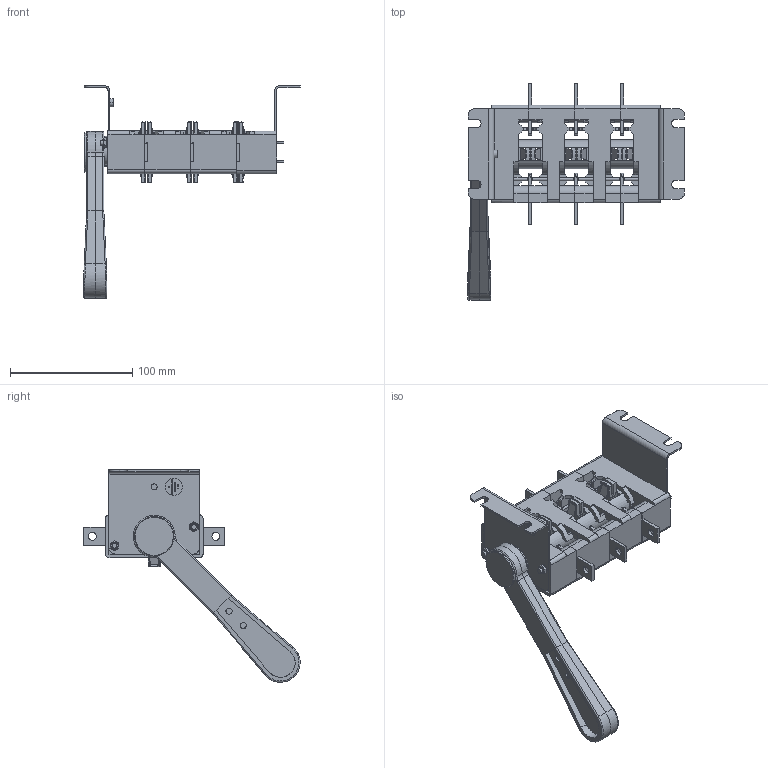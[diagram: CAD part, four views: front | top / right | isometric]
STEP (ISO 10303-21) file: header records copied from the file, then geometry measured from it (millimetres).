
FILE_DESCRIPTION (( 'STEP AP214' ), '1' );
FILE_NAME ('ﾂﾐ32-31 ﾃﾆﾈﾊ.642423.007-05 (ﾀ30220-100ﾀ).STEP', '2023-04-18T11:50:17', ( '' ), ( '' ), 'SwSTEP 2.0', 'SolidWorks 2018', '' );
FILE_SCHEMA (( 'AUTOMOTIVE_DESIGN' ));
Length unit declared in the file: millimetre
Products named in the file (24): Çàãëóøêà ÃÆÈÊ.735211.002_â¥å­®«®£¨ç¥áª ï; 想囫蜩磬_闷仁.745355.029; 暑痫篑 镳噔 闷仁.735384.079; Êîðïóñ ñðåäíèé ÃÆÈÊ.735384.080; Âàë ÃÆÈÊ.715274.009_ƒ†ˆŠ.715274.009; Êîíòàêò ïîäâèæíûé ÃÆÈÊ.745355.054; Áîêîâèíà ëåâàÿ ÃÆÈÊ.735224.023; ﾘ琺矜 4; ﾂ琿 ﾃﾆﾈﾊ.303731.003; Êîðïóñ ëåâûé ÃÆÈÊ.735384.081; 想囫蜩磬_闷仁.301714.003蚜; Òàáëè÷êà äëÿ ñáîðêè ÷èñòàÿ áîëüøàÿ; ﾂ鏆鮏 ﾃﾆﾈﾊ.745485.002; Îáîëî÷êà 100-400À; Ãàéêà Ì4; ﾏ跖浯 ﾃﾆﾈﾊ.753553.010; Ñêîáà ÃÆÈÊ.745326.032_“áâ ­®¢«¥­­®¥ á®áâ; ﾂﾐ32-31 ﾃﾆﾈﾊ.642423.007-05 (ﾀ30220-100ﾀ); Øïèëüêà ñïåöèàëüíàÿ ÃÆÈÊ.754292.014_-01(à¥§ì¡ ); Áîêîâèíà ïðàâàÿ ÃÆÈÊ.735224.022; 澡犟囹铕 闷仁.745484.014; Òàáëè÷êà äëÿ ñáîðêè ÷èñòàÿ; Ðóêîÿòêà ÃÆÈÊ.303658.015; 想囫蜩磬_闷仁.745355.027
Assembly tree (44 placements, depth 4):
  ﾂﾐ32-31 ﾃﾆﾈﾊ.642423.007-05 (ﾀ30220-100ﾀ)
    暑痫篑 镳噔 闷仁.735384.079
    Êîðïóñ ëåâûé ÃÆÈÊ.735384.081
    Êîðïóñ ñðåäíèé ÃÆÈÊ.735384.080  x2
    Áîêîâèíà ïðàâàÿ ÃÆÈÊ.735224.022
    Áîêîâèíà ëåâàÿ ÃÆÈÊ.735224.023
    Ãàéêà Ì4  x2
    ﾘ琺矜 4  x2
    Øïèëüêà ñïåöèàëüíàÿ ÃÆÈÊ.754292.014_-01(à¥§ì¡ )  x2
    ﾂ鏆鮏 ﾃﾆﾈﾊ.745485.002  x6
    Òàáëè÷êà äëÿ ñáîðêè ÷èñòàÿ
    Òàáëè÷êà äëÿ ñáîðêè ÷èñòàÿ áîëüøàÿ
    Ðóêîÿòêà ÃÆÈÊ.303658.015
      Îáîëî÷êà 100-400À
      想囫蜩磬_闷仁.301714.003蚜
        想囫蜩磬_闷仁.745355.027
        想囫蜩磬_闷仁.745355.029
    Çàãëóøêà ÃÆÈÊ.735211.002_â¥å­®«®£¨ç¥áª ï
    ﾂ琿 ﾃﾆﾈﾊ.303731.003
      Âàë ÃÆÈÊ.715274.009_ƒ†ˆŠ.715274.009
      Êîíòàêò ïîäâèæíûé ÃÆÈÊ.745355.054  x6
      Ñêîáà ÃÆÈÊ.745326.032_“áâ ­®¢«¥­­®¥ á®áâ  x6
    ﾏ跖浯 ﾃﾆﾈﾊ.753553.010  x2
    澡犟囹铕 闷仁.745484.014  x2
Bounding box: 177.49 x 177.04 x 173.98 mm (x, y, z)
Volume: 268069.3 mm3; surface area: 183304.9 mm2
Topology: 41 solids, 41 shells, 1907 faces, 4989 edges, 3213 vertices
Faces by surface type: plane 1119, cylinder 648, bspline 75, cone 44, torus 21
Entity records: 44289 total; most frequent: CARTESIAN_POINT 12243, DIRECTION 6111, ORIENTED_EDGE 5990, EDGE_CURVE 2995, AXIS2_PLACEMENT_3D 2116, VERTEX_POINT 1947, LINE 1879, VECTOR 1879
